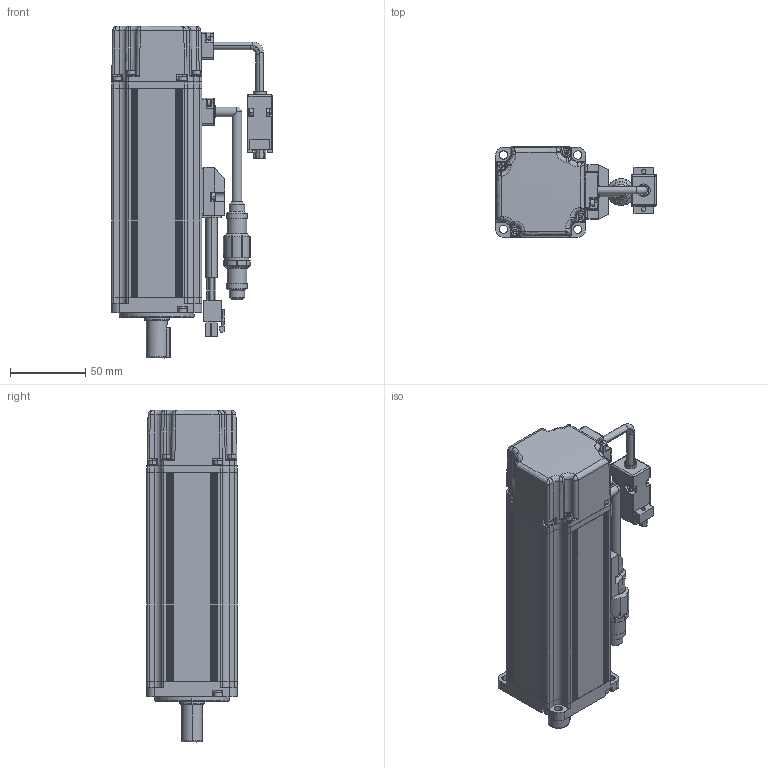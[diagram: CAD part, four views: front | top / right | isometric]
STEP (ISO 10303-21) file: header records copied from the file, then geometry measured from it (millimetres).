
FILE_DESCRIPTION((''),'2;1');
FILE_NAME('06-1A2_ASM','2018-05-02T',('Administrator'),(''),'PRO/ENGINEER BY PARAMETRIC TECHNOLOGY CORPORATION, 2009440','PRO/ENGINEER BY PARAMETRIC TECHNOLOGY CORPORATION, 2009440','');
FILE_SCHEMA(('CONFIG_CONTROL_DESIGN'));
Products named in the file (32): 60-1A2-ZZ; 60-1A2-Z_ASM; ML60-QDG-A2; 60-MFQ; 60-ZYG; GB-T93-2R5; GB-T70-M2R5X8; OQ-52X1; GB-T93-3; GB-T70-M3X16; GB-T9877-17X28X4; 60-QA2_ASM; 60-1A2-JK; GB-T97-3; GB-T70-M3X5; DYX-CT; DYX-YXH; BZX-ZJ; XHXCT; XHX; BZX-ZJ_ASM; 60-1A2-DZ_ASM; 60-HA2-JDS; OQ-50X1; 60-HA2-JDS_ASM; 5X5X20; 60-FHZ-L; GB-T70-M3X12; 60-FHZ-ZJ_ASM; XHX-ZJ; DYX-ZJ; 06-1A2_ASM
Assembly tree (72 placements, depth 4):
  06-1A2_ASM
    60-1A2-Z_ASM
      60-1A2-ZZ
    60-QA2_ASM
      ML60-QDG-A2
      60-MFQ
      60-ZYG
      GB-T93-2R5  x3
      GB-T70-M2R5X8  x3
      OQ-52X1
      GB-T93-3  x4
      GB-T70-M3X16  x4
      GB-T9877-17X28X4
    60-1A2-DZ_ASM
      60-1A2-JK
      GB-T97-3
      GB-T93-3
      GB-T70-M3X5
      DYX-CT
      DYX-YXH
      GB-T93-2R5  x2
      GB-T70-M2R5X8  x2
      BZX-ZJ_ASM
        BZX-ZJ
        XHXCT
        XHX
        GB-T93-2R5  x2
        GB-T70-M2R5X8  x2
    60-HA2-JDS_ASM
      60-HA2-JDS
      OQ-52X1
      OQ-50X1
      GB-T93-3  x4
      GB-T70-M3X16  x4
    5X5X20
    60-FHZ-ZJ_ASM
      60-FHZ-L
      XHXCT
      XHX
      GB-T93-2R5  x2
      GB-T70-M2R5X8  x2
      GB-T93-3  x4
      GB-T70-M3X12  x4
    XHX-ZJ
    DYX-ZJ
Bounding box: 107.09 x 60 x 221.22 mm (x, y, z)
Volume: 222533.3 mm3; surface area: 159427.9 mm2
Topology: 66 solids, 92 shells, 2960 faces, 6948 edges, 4268 vertices
Faces by surface type: plane 1508, cylinder 841, cone 402, torus 108, bspline 87, sphere 10, extrusion 4
Entity records: 70668 total; most frequent: CARTESIAN_POINT 19341, DIRECTION 10638, ORIENTED_EDGE 10392, EDGE_CURVE 5211, AXIS2_PLACEMENT_3D 3715, VERTEX_POINT 3332, VECTOR 3208, LINE 3204
